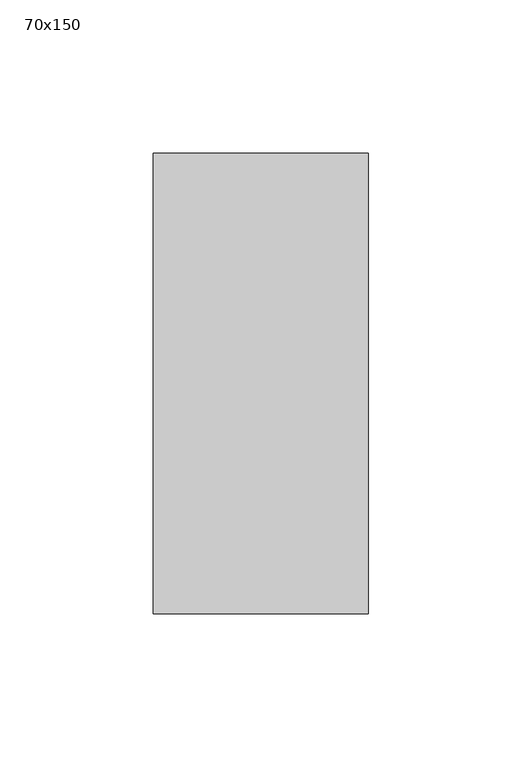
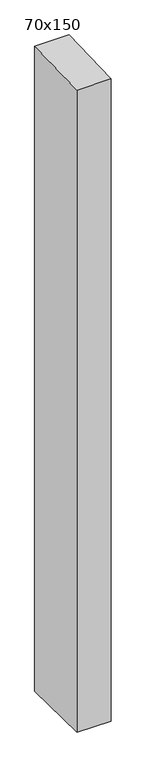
"""IFC4 building model written with IfcOpenShell, lengths in millimetres: member geometry, 長方形のマリオン : 70x150."""

from ifc_helpers import new_model, si_unit, frame, origin, place, context, project, spatial, polyline, outline, extrude, source, transform, mapped, element, save


def member_70x150_5efa4815(model_context):
    return source(origin(), model_context, "Body", "SweptSolid", [
        extrude(outline(polyline([(-75.0, -1.8591782), (75.0, 1.8591782), (75.0, -1393.0338973), (-75.0, -1391.5215645), (-75.0, -1.8591782)])), frame((-70.0, 0.0, 0.0), z_axis=(1.0, 0.0, 0.0), x_axis=(0.0, 1.0, 0.0)), (0.0, 0.0, 1.0), 70.0),
    ])


if __name__ == "__main__":
    model = new_model("IFC4")
    model_context = context("Model", 3, world=origin())
    ifc_project = project(units=[si_unit("LENGTHUNIT", "METRE", prefix="MILLI")], contexts=[model_context])
    site = spatial("IfcSite", under=ifc_project)
    building = spatial("IfcBuilding", under=site)
    placement = place(None, origin())
    member_70x150_shape = member_70x150_5efa4815(model_context)
    element("IfcMember", 1, ObjectType="長方形のマリオン : 70x150", at=placement, inside=building, context=model_context, shape_type="MappedRepresentation", body=[
        mapped(member_70x150_shape, transform((0.0, 0.0, 0.0), x_axis=(1.0, 0.0, 0.0), y_axis=(0.0, 1.0, 0.0), z_axis=(0.0, 0.0, 1.0))),
    ])
    save(model, "model.ifc")
